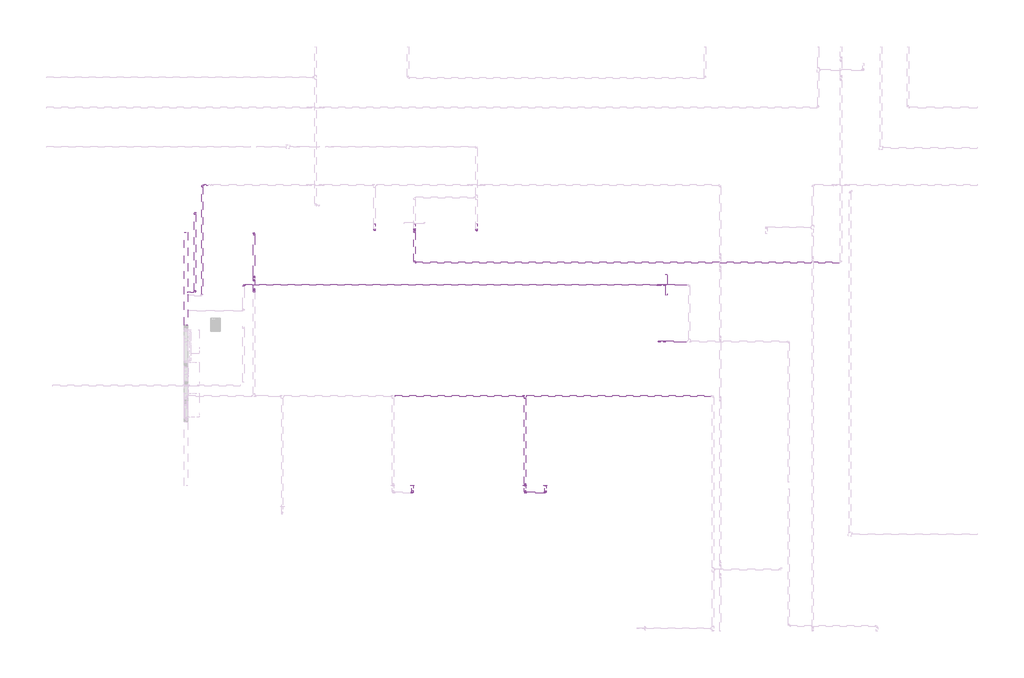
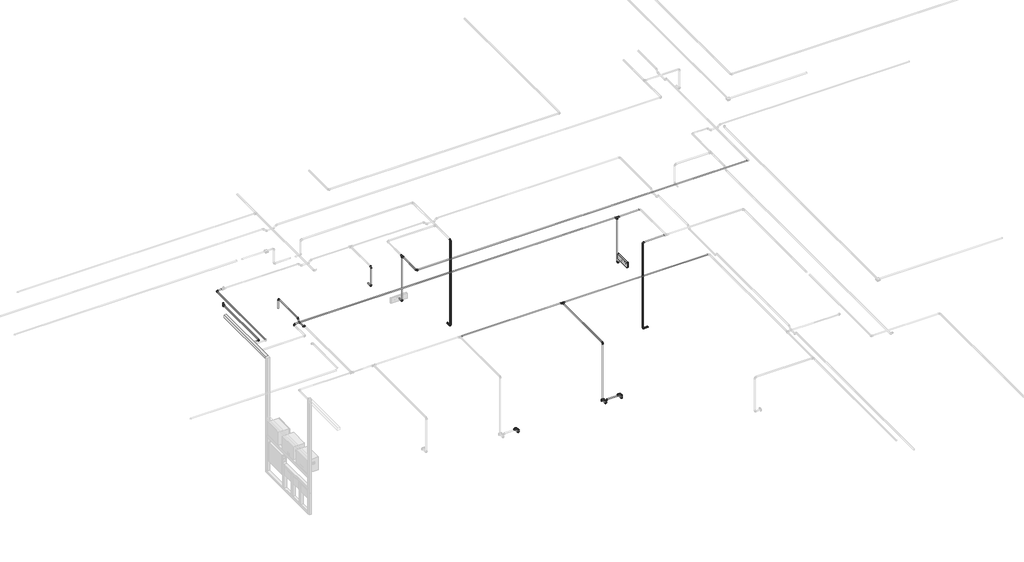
# One storey, part 20 of 40: 36 cable carrier segments, 28 cable carrier fittings, 3 electric appliances, 1 alarm.
"""IFC4 building model written with IfcOpenShell, lengths in millimetres."""

from ifc_helpers import new_model, si_unit, point, frame, frame_2d, origin, place, context, project, spatial, polyline, circle_curve, trimmed, segment, composite_curve, outline, extrude, transform, mapped, element, save
from components import alarm_4b7e8fd8, cable_carrier_fitting_69f1a801, cable_carrier_fitting_8122f9af, cable_carrier_fitting_99385771, cable_carrier_fitting_f64c7cd1, cable_carrier_fitting_8fd13dfc, cable_carrier_fitting_272863db, electric_appliance_5961a143

model = new_model("IFC4")

# Units and contexts
model_context = context("Model", 3, world=origin())
ifc_project = project(units=[si_unit("LENGTHUNIT", "METRE", prefix="MILLI")], contexts=[model_context])

# Site, building, storey
site = spatial("IfcSite", under=ifc_project)
building = spatial("IfcBuilding", under=site)
storey = spatial("IfcBuildingStorey", under=building, Name="1 этаж", Elevation=0.0)

# Alarm
placement = place(None, origin())
alarm_shape = alarm_4b7e8fd8(model_context)
element("IfcAlarm", 1, ObjectType="RBZ_Оповещатель_Световой_Рубеж_ОПОП1-R3(грань) : ОПОП 1-R3 \"Выход\"", at=placement, inside=storey, context=model_context, shape_type="MappedRepresentation", body=[
    mapped(alarm_shape, transform((-16192.3240021, 3137.1370105, 2300.0), x_axis=(0.0, 1.0, 0.0), y_axis=(0.0, 0.0, 1.0), z_axis=(1.0, 0.0, 0.0))),
])

# Cable carrier fittings
cable_carrier_fitting_shape = cable_carrier_fitting_69f1a801(model_context)
element("IfcCableCarrierFitting", 2, ObjectType="ADSK_Поворот_Минимальный размер : Неспецифицируемый", at=placement, inside=storey, context=model_context, shape_type="MappedRepresentation", body=[
    mapped(cable_carrier_fitting_shape, transform((-20414.8240021, 3927.4372049, 2797.4861504), x_axis=(0.0, -1.0, 0.0), y_axis=(0.0, 0.0, 1.0), z_axis=(-1.0, 0.0, 0.0))),
])
element("IfcCableCarrierFitting", 3, ObjectType="ADSK_Поворот_Минимальный размер : Неспецифицируемый", at=placement, inside=storey, context=model_context, shape_type="MappedRepresentation", body=[
    mapped(cable_carrier_fitting_shape, transform((-20414.8240021, 3927.4372049, 3180.0), x_axis=(0.0, 0.0, 1.0), y_axis=(0.0, 1.0, 0.0), z_axis=(-1.0, 0.0, 0.0))),
])
element("IfcCableCarrierFitting", 4, ObjectType="ADSK_Поворот_Минимальный размер : Неспецифицируемый", at=placement, inside=storey, context=model_context, shape_type="MappedRepresentation", body=[
    mapped(cable_carrier_fitting_shape, transform((-18937.3240021, 3927.4372049, 1500.0), x_axis=(0.0, -1.0, 0.0), y_axis=(0.0, 0.0, 1.0), z_axis=(-1.0, 0.0, 0.0))),
])
element("IfcCableCarrierFitting", 5, ObjectType="ADSK_Поворот_Минимальный размер : Неспецифицируемый", at=placement, inside=storey, context=model_context, shape_type="MappedRepresentation", body=[
    mapped(cable_carrier_fitting_shape, transform((-18937.3240021, 3927.4372049, 3189.3), x_axis=(0.0, 0.0, 1.0), y_axis=(0.0, 1.0, 0.0), z_axis=(-1.0, 0.0, 0.0))),
])
element("IfcCableCarrierFitting", 6, ObjectType="ADSK_Поворот_Минимальный размер : Неспецифицируемый", at=placement, inside=storey, context=model_context, shape_type="MappedRepresentation", body=[
    mapped(cable_carrier_fitting_shape, transform((-19837.3240021, 3462.1370308, 3189.3323031), x_axis=(0.0, -0.9999999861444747, -0.00016646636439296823), y_axis=(1.0000000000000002, 0.0, 0.0), z_axis=(0.0, -0.00016646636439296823, 0.9999999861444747))),
])
element("IfcCableCarrierFitting", 7, ObjectType="ADSK_Поворот_Минимальный размер : Неспецифицируемый", at=placement, inside=storey, context=model_context, shape_type="MappedRepresentation", body=[
    mapped(cable_carrier_fitting_shape, transform((-16289.5238077, 2314.6370105, 1500.0), x_axis=(-1.0, 0.0, 0.0), y_axis=(0.0, 0.0, 1.0), z_axis=(0.0, 1.0, 0.0))),
])
element("IfcCableCarrierFitting", 8, ObjectType="ADSK_Поворот_Минимальный размер : Неспецифицируемый", at=placement, inside=storey, context=model_context, shape_type="MappedRepresentation", body=[
    mapped(cable_carrier_fitting_shape, transform((-16289.5238077, 3137.1370105, 2300.0), x_axis=(-1.0, 0.0, 0.0), y_axis=(0.0, 0.0, 1.0), z_axis=(0.0, 1.0, 0.0))),
])
element("IfcCableCarrierFitting", 9, ObjectType="ADSK_Поворот_Минимальный размер : Неспецифицируемый", at=placement, inside=storey, context=model_context, shape_type="MappedRepresentation", body=[
    mapped(cable_carrier_fitting_shape, transform((-22314.3095709, 3137.1370105, 3189.3), x_axis=(-1.0, 0.0, 0.0), y_axis=(0.0, -1.0, 0.0), z_axis=(0.0, 0.0, 1.0))),
])
element("IfcCableCarrierFitting", 10, ObjectType="ADSK_Поворот_Минимальный размер : Неспецифицируемый", at=placement, inside=storey, context=model_context, shape_type="MappedRepresentation", body=[
    mapped(cable_carrier_fitting_shape, transform((-22164.7740021, 3886.6370105, 3187.0), x_axis=(0.0, 0.0, 1.0), y_axis=(0.0, -1.0, 0.0), z_axis=(1.0, 0.0, 0.0))),
])
element("IfcCableCarrierFitting", 11, ObjectType="ADSK_Поворот_Минимальный размер : Неспецифицируемый", at=placement, inside=storey, context=model_context, shape_type="MappedRepresentation", body=[
    mapped(cable_carrier_fitting_shape, transform((-19865.420483, 127.4372049, 2028.0911237), x_axis=(0.0, -1.0, 0.0), y_axis=(0.0, 0.0, 1.0), z_axis=(-1.0, 0.0, 0.0))),
])
element("IfcCableCarrierFitting", 12, ObjectType="ADSK_Поворот_Минимальный размер : Неспецифицируемый", at=placement, inside=storey, context=model_context, shape_type="MappedRepresentation", body=[
    mapped(cable_carrier_fitting_shape, transform((-19865.420483, 127.4372049, 2100.0), x_axis=(0.0, 0.0, 1.0), y_axis=(-0.9996534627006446, -0.026324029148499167, 0.0), z_axis=(0.026324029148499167, -0.9996534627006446, 0.0))),
])
element("IfcCableCarrierFitting", 13, ObjectType="ADSK_Поворот_Минимальный размер : Неспецифицируемый", at=placement, inside=storey, context=model_context, shape_type="MappedRepresentation", body=[
    mapped(cable_carrier_fitting_shape, transform((-17938.7695669, 127.4372049, 2028.0911237), x_axis=(0.0, -1.0, 0.0), y_axis=(0.0, 0.0, 1.0), z_axis=(-1.0, 0.0, 0.0))),
])
element("IfcCableCarrierFitting", 14, ObjectType="ADSK_Поворот_Минимальный размер : Неспецифицируемый", at=placement, inside=storey, context=model_context, shape_type="MappedRepresentation", body=[
    mapped(cable_carrier_fitting_shape, transform((-18236.4364887, 127.4372049, 2028.0911237), x_axis=(0.0, -1.0, 0.0), y_axis=(0.0, 0.0, 1.0), z_axis=(-1.0, 0.0, 0.0))),
])
element("IfcCableCarrierFitting", 15, ObjectType="ADSK_Поворот_Минимальный размер : Неспецифицируемый", at=placement, inside=storey, context=model_context, shape_type="MappedRepresentation", body=[
    mapped(cable_carrier_fitting_shape, transform((-18236.4364887, 127.4372049, 2100.0), x_axis=(0.0, 0.0, 1.0), y_axis=(0.9997246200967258, 0.023466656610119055, 0.0), z_axis=(-0.023466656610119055, 0.9997246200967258, 0.0))),
])
element("IfcCableCarrierFitting", 16, ObjectType="ADSK_Поворот_Минимальный размер : Неспецифицируемый", at=placement, inside=storey, context=model_context, shape_type="MappedRepresentation", body=[
    mapped(cable_carrier_fitting_shape, transform((-17938.7695669, 127.4372049, 2100.0), x_axis=(0.0, 0.0, 1.0), y_axis=(-0.9997246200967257, -0.023466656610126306, 0.0), z_axis=(0.023466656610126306, -0.9997246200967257, 0.0))),
])
element("IfcCableCarrierFitting", 17, ObjectType="ADSK_Поворот_Минимальный размер : Неспецифицируемый", at=placement, inside=storey, context=model_context, shape_type="MappedRepresentation", body=[
    mapped(cable_carrier_fitting_shape, transform((-18236.4364887, 227.6370105, 3166.0), x_axis=(0.0, 0.0, 1.0), y_axis=(0.0, 1.0, 0.0), z_axis=(-1.0, 0.0, 0.0))),
])
element("IfcCableCarrierFitting", 18, ObjectType="ADSK_Поворот_Минимальный размер : Неспецифицируемый", at=placement, inside=storey, context=model_context, shape_type="MappedRepresentation", body=[
    mapped(cable_carrier_fitting_shape, transform((-22914.7740021, 4582.0798551, 3180.0), x_axis=(-1.0, 0.0, 0.0), y_axis=(0.0, -1.0, 0.0), z_axis=(0.0, 0.0, 1.0))),
])
element("IfcCableCarrierFitting", 19, ObjectType="ADSK_Поворот_Минимальный размер : Неспецифицируемый", at=placement, inside=storey, context=model_context, shape_type="MappedRepresentation", body=[
    mapped(cable_carrier_fitting_shape, transform((-23017.3240021, 3029.6996748, 3187.0), x_axis=(1.0, 0.0, 0.0), y_axis=(0.0, 1.0, 0.0), z_axis=(0.0, 0.0, 1.0))),
])
cable_carrier_fitting_2_shape = cable_carrier_fitting_8122f9af(model_context)
element("IfcCableCarrierFitting", 20, ObjectType="ADSK_Поворот_Минимальный размер : Неспецифицируемый", at=placement, inside=storey, context=model_context, shape_type="MappedRepresentation", body=[
    mapped(cable_carrier_fitting_2_shape, transform((-22164.7740021, 3070.5647393, 3137.0), x_axis=(0.0, 0.7071067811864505, -0.7071067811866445), y_axis=(0.0, 0.7071067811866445, 0.7071067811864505), z_axis=(1.0, 0.0, 0.0))),
])
element("IfcCableCarrierFitting", 21, ObjectType="ADSK_Поворот_Минимальный размер : Неспецифицируемый", at=placement, inside=storey, context=model_context, shape_type="MappedRepresentation", body=[
    mapped(cable_carrier_fitting_2_shape, transform((-22164.7740021, 3203.7092818, 3137.0), x_axis=(0.0, 1.0, 0.0), y_axis=(0.0, 0.0, 1.0), z_axis=(1.0, 0.0, 0.0))),
])
element("IfcCableCarrierFitting", 22, ObjectType="ADSK_Поворот_Минимальный размер : Неспецифицируемый", at=placement, inside=storey, context=model_context, shape_type="MappedRepresentation", body=[
    mapped(cable_carrier_fitting_2_shape, transform((-22164.7740021, 3253.7092818, 3187.0), x_axis=(0.0, 0.7071067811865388, 0.7071067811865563), y_axis=(0.0, 0.7071067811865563, -0.7071067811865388), z_axis=(-1.0, 0.0, 0.0))),
])
element("IfcCableCarrierFitting", 23, ObjectType="ADSK_Поворот_Минимальный размер : Неспецифицируемый", at=placement, inside=storey, context=model_context, shape_type="MappedRepresentation", body=[
    mapped(cable_carrier_fitting_2_shape, transform((-22164.7740021, 3041.5647393, 3166.0), x_axis=(0.0, -0.7071067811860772, 0.707106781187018), y_axis=(0.0, -0.707106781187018, -0.7071067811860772), z_axis=(1.0, 0.0, 0.0))),
])
cable_carrier_fitting_3_shape = cable_carrier_fitting_99385771(model_context)
element("IfcCableCarrierFitting", 24, ObjectType="ADSK_Поворот_Минимальный размер : Неспецифицируемый", at=placement, inside=storey, context=model_context, shape_type="MappedRepresentation", body=[
    mapped(cable_carrier_fitting_3_shape, transform((-19837.3240021, 3927.4372049, 2300.0), x_axis=(0.0, -1.0, 0.0), y_axis=(0.0, 0.0, 1.0), z_axis=(-1.0, 0.0, 0.0))),
])
cable_carrier_fitting_4_shape = cable_carrier_fitting_f64c7cd1(model_context)
element("IfcCableCarrierFitting", 25, ObjectType="ADSK_Поворот_Минимальный размер : Неспецифицируемый", at=placement, inside=storey, context=model_context, shape_type="MappedRepresentation", body=[
    mapped(cable_carrier_fitting_4_shape, transform((-16289.5238077, 2314.6370105, 3189.3015994), x_axis=(0.0, 0.0, 1.0), y_axis=(1.0, 0.0, 0.0), z_axis=(0.0, 1.0, 0.0))),
])
cable_carrier_fitting_5_shape = cable_carrier_fitting_8fd13dfc(model_context)
element("IfcCableCarrierFitting", 26, ObjectType="ADSK_Тройник : ПВХ", at=placement, inside=storey, context=model_context, shape_type="MappedRepresentation", body=[
    mapped(cable_carrier_fitting_5_shape, transform((-16289.5238077, 3137.1370105, 3189.3), x_axis=(-1.0, 0.0, 0.0), y_axis=(0.0, 0.0, 1.0), z_axis=(0.0, 1.0, 0.0))),
])
element("IfcCableCarrierFitting", 27, ObjectType="ADSK_Тройник : ПВХ", at=placement, inside=storey, context=model_context, shape_type="MappedRepresentation", body=[
    mapped(cable_carrier_fitting_5_shape, transform((-18236.4364887, 1524.6370105, 3166.0), x_axis=(1.0, 0.0, 0.0), y_axis=(0.0, 1.0, 0.0), z_axis=(0.0, 0.0, 1.0))),
])
element("IfcCableCarrierFitting", 28, ObjectType="ADSK_Тройник : ПВХ", at=placement, inside=storey, context=model_context, shape_type="MappedRepresentation", body=[
    mapped(cable_carrier_fitting_5_shape, transform((-23017.3240021, 4191.0020779, 3187.0), x_axis=(0.0, 0.0, -1.0), y_axis=(0.0, 1.0, 0.0), z_axis=(1.0, 0.0, 0.0))),
])
cable_carrier_fitting_6_shape = cable_carrier_fitting_272863db(model_context)
element("IfcCableCarrierFitting", 29, ObjectType="ADSK_Тройник : ПВХ", at=placement, inside=storey, context=model_context, shape_type="MappedRepresentation", body=[
    mapped(cable_carrier_fitting_6_shape, transform((-19837.3240021, 3927.4372049, 3189.4356474), x_axis=(0.0, -0.9999999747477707, -0.00022473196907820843), y_axis=(0.0, 0.00022473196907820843, -0.9999999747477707), z_axis=(1.0, 0.0, 0.0))),
])

# Cable carrier segments
element("IfcCableCarrierSegment", 30, ObjectType="IEK_PF_OS_Лоток перфорированный оцинкованная сталь_L=3000_t=0,55", at=placement, inside=storey, context=model_context, shape_type="SweptSolid", body=[
    extrude(outline(polyline([(-23172.3240021, 2552.269318), (-23172.3240021, 3896.269318), (-23127.3240021, 3896.269318), (-23127.3240021, 2552.269318), (-23172.3240021, 2552.269318)])), frame((0.0, 0.0, 3164.5), z_axis=(0.0, 0.0, 1.0), x_axis=(1.0, 0.0, 0.0)), (0.0, 0.0, 1.0), 45.0),
])
element("IfcCableCarrierSegment", 31, ObjectType="Гофрированная труба", at=placement, inside=storey, context=model_context, shape_type="SweptSolid", body=[
    extrude(outline(composite_curve([segment(trimmed(circle_curve(frame_2d((3462.1370308, 3189.3323031)), 10.0), [point((3472.1370308, 3189.3323099))], [point((3462.1370375, 3179.3323031))], False, "CARTESIAN"), True, "CONTINUOUS"), segment(trimmed(circle_curve(frame_2d((3462.1370308, 3189.3323031)), 10.0), [point((3462.1370375, 3179.3323031))], [point((3452.1370308, 3189.3322963))], False, "CARTESIAN"), True, "CONTINUOUS"), segment(trimmed(circle_curve(frame_2d((3462.1370308, 3189.3323031)), 10.0), [point((3452.1370308, 3189.3322963))], [point((3462.137024, 3199.3323031))], False, "CARTESIAN"), True, "CONTINUOUS"), segment(trimmed(circle_curve(frame_2d((3462.1370308, 3189.3323031)), 10.0), [point((3462.137024, 3199.3323031))], [point((3472.1370308, 3189.3323099))], False, "CARTESIAN"), True, "CONTINUOUS")], self_intersect=False)), frame((-19816.3240021, 0.0, 0.0), z_axis=(1.0, 0.0, 0.0), x_axis=(0.0, 1.0, 0.0)), (0.0, 0.0, 1.0), 6142.9999908),
])
element("IfcCableCarrierSegment", 32, ObjectType="Гофрированная труба", at=placement, inside=storey, context=model_context, shape_type="SweptSolid", body=[
    extrude(outline(composite_curve([segment(trimmed(circle_curve(frame_2d((3180.0, -22914.7740021)), 10.0), [point((3180.0, -22924.7740021))], [point((3170.0, -22914.7740021))], False, "CARTESIAN"), True, "CONTINUOUS"), segment(trimmed(circle_curve(frame_2d((3180.0, -22914.7740021)), 10.0), [point((3170.0, -22914.7740021))], [point((3180.0, -22904.7740021))], False, "CARTESIAN"), True, "CONTINUOUS"), segment(trimmed(circle_curve(frame_2d((3180.0, -22914.7740021)), 10.0), [point((3180.0, -22904.7740021))], [point((3190.0, -22914.7740021))], False, "CARTESIAN"), True, "CONTINUOUS"), segment(trimmed(circle_curve(frame_2d((3180.0, -22914.7740021)), 10.0), [point((3190.0, -22914.7740021))], [point((3180.0, -22924.7740021))], False, "CARTESIAN"), True, "CONTINUOUS")], self_intersect=False)), frame((0.0, 3003.0798551, 0.0), z_axis=(0.0, 1.0, 0.0), x_axis=(0.0, 0.0, 1.0)), (0.0, 0.0, 1.0), 1558.0),
])
element("IfcCableCarrierSegment", 33, ObjectType="Гофрированная труба", at=placement, inside=storey, context=model_context, shape_type="SweptSolid", body=[
    extrude(outline(composite_curve([segment(trimmed(circle_curve(frame_2d((2797.4861504, -20414.8240021)), 10.0), [point((2797.4861504, -20424.8240021))], [point((2787.4861504, -20414.8240021))], False, "CARTESIAN"), True, "CONTINUOUS"), segment(trimmed(circle_curve(frame_2d((2797.4861504, -20414.8240021)), 10.0), [point((2787.4861504, -20414.8240021))], [point((2797.4861504, -20404.8240021))], False, "CARTESIAN"), True, "CONTINUOUS"), segment(trimmed(circle_curve(frame_2d((2797.4861504, -20414.8240021)), 10.0), [point((2797.4861504, -20404.8240021))], [point((2807.4861504, -20414.8240021))], False, "CARTESIAN"), True, "CONTINUOUS"), segment(trimmed(circle_curve(frame_2d((2797.4861504, -20414.8240021)), 10.0), [point((2807.4861504, -20414.8240021))], [point((2797.4861504, -20424.8240021))], False, "CARTESIAN"), True, "CONTINUOUS")], self_intersect=False)), frame((0.0, 3948.4372049, 0.0), z_axis=(0.0, 1.0, 0.0), x_axis=(0.0, 0.0, 1.0)), (0.0, 0.0, 1.0), 76.1998056),
])
element("IfcCableCarrierSegment", 34, ObjectType="Гофрированная труба", at=placement, inside=storey, context=model_context, shape_type="SweptSolid", body=[
    extrude(outline(composite_curve([segment(trimmed(circle_curve(frame_2d((-20414.8240021, 3927.4372049)), 10.0), [point((-20424.8240021, 3927.4372049))], [point((-20414.8240021, 3937.4372049))], False, "CARTESIAN"), True, "CONTINUOUS"), segment(trimmed(circle_curve(frame_2d((-20414.8240021, 3927.4372049)), 10.0), [point((-20414.8240021, 3937.4372049))], [point((-20404.8240021, 3927.4372049))], False, "CARTESIAN"), True, "CONTINUOUS"), segment(trimmed(circle_curve(frame_2d((-20414.8240021, 3927.4372049)), 10.0), [point((-20404.8240021, 3927.4372049))], [point((-20414.8240021, 3917.4372049))], False, "CARTESIAN"), True, "CONTINUOUS"), segment(trimmed(circle_curve(frame_2d((-20414.8240021, 3927.4372049)), 10.0), [point((-20414.8240021, 3917.4372049))], [point((-20424.8240021, 3927.4372049))], False, "CARTESIAN"), True, "CONTINUOUS")], self_intersect=False)), frame((0.0, 0.0, 2818.4861504), z_axis=(0.0, 0.0, 1.0), x_axis=(1.0, 0.0, 0.0)), (0.0, 0.0, 1.0), 340.5138496),
])
element("IfcCableCarrierSegment", 35, ObjectType="Гофрированная труба", at=placement, inside=storey, context=model_context, shape_type="SweptSolid", body=[
    extrude(outline(composite_curve([segment(trimmed(circle_curve(frame_2d((4582.0798551, 3180.0)), 10.0), [point((4592.0798551, 3180.0))], [point((4582.0798551, 3170.0))], False, "CARTESIAN"), True, "CONTINUOUS"), segment(trimmed(circle_curve(frame_2d((4582.0798551, 3180.0)), 10.0), [point((4582.0798551, 3170.0))], [point((4572.0798551, 3180.0))], False, "CARTESIAN"), True, "CONTINUOUS"), segment(trimmed(circle_curve(frame_2d((4582.0798551, 3180.0)), 10.0), [point((4572.0798551, 3180.0))], [point((4582.0798551, 3190.0))], False, "CARTESIAN"), True, "CONTINUOUS"), segment(trimmed(circle_curve(frame_2d((4582.0798551, 3180.0)), 10.0), [point((4582.0798551, 3190.0))], [point((4592.0798551, 3180.0))], False, "CARTESIAN"), True, "CONTINUOUS")], self_intersect=False)), frame((-22893.7740021, 0.0, 0.0), z_axis=(1.0, 0.0, 0.0), x_axis=(0.0, 1.0, 0.0)), (0.0, 0.0, 1.0), 76.9142951),
])
element("IfcCableCarrierSegment", 36, ObjectType="Гофрированная труба", at=placement, inside=storey, context=model_context, shape_type="SweptSolid", body=[
    extrude(outline(composite_curve([segment(trimmed(circle_curve(frame_2d((1500.0, -18937.3240021)), 10.0), [point((1500.0, -18947.3240021))], [point((1490.0, -18937.3240021))], False, "CARTESIAN"), True, "CONTINUOUS"), segment(trimmed(circle_curve(frame_2d((1500.0, -18937.3240021)), 10.0), [point((1490.0, -18937.3240021))], [point((1500.0, -18927.3240021))], False, "CARTESIAN"), True, "CONTINUOUS"), segment(trimmed(circle_curve(frame_2d((1500.0, -18937.3240021)), 10.0), [point((1500.0, -18927.3240021))], [point((1510.0, -18937.3240021))], False, "CARTESIAN"), True, "CONTINUOUS"), segment(trimmed(circle_curve(frame_2d((1500.0, -18937.3240021)), 10.0), [point((1510.0, -18937.3240021))], [point((1500.0, -18947.3240021))], False, "CARTESIAN"), True, "CONTINUOUS")], self_intersect=False)), frame((0.0, 3948.4372049, 0.0), z_axis=(0.0, 1.0, 0.0), x_axis=(0.0, 0.0, 1.0)), (0.0, 0.0, 1.0), 76.1998056),
])
element("IfcCableCarrierSegment", 37, ObjectType="Гофрированная труба", at=placement, inside=storey, context=model_context, shape_type="SweptSolid", body=[
    extrude(outline(composite_curve([segment(trimmed(circle_curve(frame_2d((-18937.3240021, 3927.4372049)), 10.0), [point((-18947.3240021, 3927.4372049))], [point((-18937.3240021, 3937.4372049))], False, "CARTESIAN"), True, "CONTINUOUS"), segment(trimmed(circle_curve(frame_2d((-18937.3240021, 3927.4372049)), 10.0), [point((-18937.3240021, 3937.4372049))], [point((-18927.3240021, 3927.4372049))], False, "CARTESIAN"), True, "CONTINUOUS"), segment(trimmed(circle_curve(frame_2d((-18937.3240021, 3927.4372049)), 10.0), [point((-18927.3240021, 3927.4372049))], [point((-18937.3240021, 3917.4372049))], False, "CARTESIAN"), True, "CONTINUOUS"), segment(trimmed(circle_curve(frame_2d((-18937.3240021, 3927.4372049)), 10.0), [point((-18937.3240021, 3917.4372049))], [point((-18947.3240021, 3927.4372049))], False, "CARTESIAN"), True, "CONTINUOUS")], self_intersect=False)), frame((0.0, 0.0, 1521.0), z_axis=(0.0, 0.0, 1.0), x_axis=(1.0, 0.0, 0.0)), (0.0, 0.0, 1.0), 1647.3),
])
element("IfcCableCarrierSegment", 38, ObjectType="Гофрированная труба", at=placement, inside=storey, context=model_context, shape_type="SweptSolid", body=[
    extrude(outline(composite_curve([segment(trimmed(circle_curve(frame_2d((2300.0, -19837.3240021)), 10.0), [point((2300.0, -19847.3240021))], [point((2290.0, -19837.3240021))], False, "CARTESIAN"), True, "CONTINUOUS"), segment(trimmed(circle_curve(frame_2d((2300.0, -19837.3240021)), 10.0), [point((2290.0, -19837.3240021))], [point((2300.0, -19827.3240021))], False, "CARTESIAN"), True, "CONTINUOUS"), segment(trimmed(circle_curve(frame_2d((2300.0, -19837.3240021)), 10.0), [point((2300.0, -19827.3240021))], [point((2310.0, -19837.3240021))], False, "CARTESIAN"), True, "CONTINUOUS"), segment(trimmed(circle_curve(frame_2d((2300.0, -19837.3240021)), 10.0), [point((2310.0, -19837.3240021))], [point((2300.0, -19847.3240021))], False, "CARTESIAN"), True, "CONTINUOUS")], self_intersect=False)), frame((0.0, 3948.4373618, 0.0), z_axis=(0.0, 1.0, 0.0), x_axis=(0.0, 0.0, 1.0)), (0.0, 0.0, 1.0), 76.1996487),
])
element("IfcCableCarrierSegment", 39, ObjectType="Гофрированная труба", at=placement, inside=storey, context=model_context, shape_type="SweptSolid", body=[
    extrude(outline(composite_curve([segment(trimmed(circle_curve(frame_2d((0.0, 10.0)), 10.0), [point((-10.0, 10.0))], [point((0.0, 20.0))], False, "CARTESIAN"), True, "CONTINUOUS"), segment(trimmed(circle_curve(frame_2d((0.0, 10.0)), 10.0), [point((0.0, 20.0))], [point((10.0, 10.0))], False, "CARTESIAN"), True, "CONTINUOUS"), segment(trimmed(circle_curve(frame_2d((0.0, 10.0)), 10.0), [point((10.0, 10.0))], [point((0.0, 0.0))], False, "CARTESIAN"), True, "CONTINUOUS"), segment(trimmed(circle_curve(frame_2d((0.0, 10.0)), 10.0), [point((0.0, 0.0))], [point((-10.0, 10.0))], False, "CARTESIAN"), True, "CONTINUOUS")], self_intersect=False)), frame((-19837.3240021, 3917.4373697, 2321.0002353), z_axis=(0.0, 7.844635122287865e-06, 0.999999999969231), x_axis=(1.0, 0.0, 0.0)), (0.0, 0.0, 1.0), 838.4354912),
])
element("IfcCableCarrierSegment", 40, ObjectType="Гофрированная труба", at=placement, inside=storey, context=model_context, shape_type="SweptSolid", body=[
    extrude(outline(composite_curve([segment(trimmed(circle_curve(frame_2d((0.0, 10.0)), 10.0), [point((0.0, 20.0))], [point((10.0000001, 10.0))], False, "CARTESIAN"), True, "CONTINUOUS"), segment(trimmed(circle_curve(frame_2d((0.0, 10.0)), 10.0), [point((10.0000001, 10.0))], [point((0.0, 0.0))], False, "CARTESIAN"), True, "CONTINUOUS"), segment(trimmed(circle_curve(frame_2d((0.0, 10.0)), 10.0), [point((0.0, 0.0))], [point((-10.0, 10.0))], False, "CARTESIAN"), True, "CONTINUOUS"), segment(trimmed(circle_curve(frame_2d((0.0, 10.0)), 10.0), [point((-10.0, 10.0))], [point((0.0, 20.0))], False, "CARTESIAN"), True, "CONTINUOUS")], self_intersect=False)), frame((-19847.3240021, 3483.1370305, 3189.3357989), z_axis=(0.0, 0.9999999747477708, 0.00022473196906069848), x_axis=(0.0, -0.00022473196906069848, 0.9999999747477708)), (0.0, 0.0, 1.0), 414.3001857),
])
element("IfcCableCarrierSegment", 41, ObjectType="Гофрированная труба", at=placement, inside=storey, context=model_context, shape_type="SweptSolid", body=[
    extrude(outline(composite_curve([segment(trimmed(circle_curve(frame_2d((0.0, 10.0)), 10.0), [point((-10.0, 10.0))], [point((0.0, 20.0000001))], False, "CARTESIAN"), True, "CONTINUOUS"), segment(trimmed(circle_curve(frame_2d((0.0, 10.0)), 10.0), [point((0.0, 20.0000001))], [point((10.0, 10.0))], False, "CARTESIAN"), True, "CONTINUOUS"), segment(trimmed(circle_curve(frame_2d((0.0, 10.0)), 10.0), [point((10.0, 10.0))], [point((0.0, 0.0))], False, "CARTESIAN"), True, "CONTINUOUS"), segment(trimmed(circle_curve(frame_2d((0.0, 10.0)), 10.0), [point((0.0, 0.0))], [point((-10.0, 10.0))], False, "CARTESIAN"), True, "CONTINUOUS")], self_intersect=False)), frame((-15882.3247637, 2314.6370105, 3179.2705868), z_axis=(-0.9999999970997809, 0.0, 7.61606080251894e-05), x_axis=(0.0, -1.0, 0.0)), (0.0, 0.0, 1.0), 386.1982835),
])
element("IfcCableCarrierSegment", 42, ObjectType="Гофрированная труба", at=placement, inside=storey, context=model_context, shape_type="SweptSolid", body=[
    extrude(outline(composite_curve([segment(trimmed(circle_curve(frame_2d((2314.6370105, 1500.0)), 10.0), [point((2324.6370105, 1500.0))], [point((2314.6370105, 1490.0))], False, "CARTESIAN"), True, "CONTINUOUS"), segment(trimmed(circle_curve(frame_2d((2314.6370105, 1500.0)), 10.0), [point((2314.6370105, 1490.0))], [point((2304.6370105, 1500.0))], False, "CARTESIAN"), True, "CONTINUOUS"), segment(trimmed(circle_curve(frame_2d((2314.6370105, 1500.0)), 10.0), [point((2304.6370105, 1500.0))], [point((2314.6370105, 1510.0))], False, "CARTESIAN"), True, "CONTINUOUS"), segment(trimmed(circle_curve(frame_2d((2314.6370105, 1500.0)), 10.0), [point((2314.6370105, 1510.0))], [point((2324.6370105, 1500.0))], False, "CARTESIAN"), True, "CONTINUOUS")], self_intersect=False)), frame((-16268.5238077, 0.0, 0.0), z_axis=(1.0, 0.0, 0.0), x_axis=(0.0, 1.0, 0.0)), (0.0, 0.0, 1.0), 76.1998056),
])
element("IfcCableCarrierSegment", 43, ObjectType="Гофрированная труба", at=placement, inside=storey, context=model_context, shape_type="SweptSolid", body=[
    extrude(outline(composite_curve([segment(trimmed(circle_curve(frame_2d((-16289.5238077, 2314.6370105)), 10.0), [point((-16299.5238077, 2314.6370105))], [point((-16289.5238077, 2324.6370105))], False, "CARTESIAN"), True, "CONTINUOUS"), segment(trimmed(circle_curve(frame_2d((-16289.5238077, 2314.6370105)), 10.0), [point((-16289.5238077, 2324.6370105))], [point((-16279.5238077, 2314.6370105))], False, "CARTESIAN"), True, "CONTINUOUS"), segment(trimmed(circle_curve(frame_2d((-16289.5238077, 2314.6370105)), 10.0), [point((-16279.5238077, 2314.6370105))], [point((-16289.5238077, 2304.6370105))], False, "CARTESIAN"), True, "CONTINUOUS"), segment(trimmed(circle_curve(frame_2d((-16289.5238077, 2314.6370105)), 10.0), [point((-16289.5238077, 2304.6370105))], [point((-16299.5238077, 2314.6370105))], False, "CARTESIAN"), True, "CONTINUOUS")], self_intersect=False)), frame((0.0, 0.0, 1521.0), z_axis=(0.0, 0.0, 1.0), x_axis=(1.0, 0.0, 0.0)), (0.0, 0.0, 1.0), 1647.3000761),
])
element("IfcCableCarrierSegment", 44, ObjectType="Гофрированная труба", at=placement, inside=storey, context=model_context, shape_type="SweptSolid", body=[
    extrude(outline(composite_curve([segment(trimmed(circle_curve(frame_2d((3137.1370105, 2300.0)), 10.0), [point((3147.1370105, 2300.0))], [point((3137.1370105, 2290.0))], False, "CARTESIAN"), True, "CONTINUOUS"), segment(trimmed(circle_curve(frame_2d((3137.1370105, 2300.0)), 10.0), [point((3137.1370105, 2290.0))], [point((3127.1370105, 2300.0))], False, "CARTESIAN"), True, "CONTINUOUS"), segment(trimmed(circle_curve(frame_2d((3137.1370105, 2300.0)), 10.0), [point((3127.1370105, 2300.0))], [point((3137.1370105, 2310.0))], False, "CARTESIAN"), True, "CONTINUOUS"), segment(trimmed(circle_curve(frame_2d((3137.1370105, 2300.0)), 10.0), [point((3137.1370105, 2310.0))], [point((3147.1370105, 2300.0))], False, "CARTESIAN"), True, "CONTINUOUS")], self_intersect=False)), frame((-16268.5238077, 0.0, 0.0), z_axis=(1.0, 0.0, 0.0), x_axis=(0.0, 1.0, 0.0)), (0.0, 0.0, 1.0), 76.1998056),
])
element("IfcCableCarrierSegment", 45, ObjectType="Гофрированная труба", at=placement, inside=storey, context=model_context, shape_type="SweptSolid", body=[
    extrude(outline(composite_curve([segment(trimmed(circle_curve(frame_2d((-16289.5238077, 3137.1370105)), 10.0), [point((-16299.5238077, 3137.1370105))], [point((-16289.5238077, 3147.1370105))], False, "CARTESIAN"), True, "CONTINUOUS"), segment(trimmed(circle_curve(frame_2d((-16289.5238077, 3137.1370105)), 10.0), [point((-16289.5238077, 3147.1370105))], [point((-16279.5238077, 3137.1370105))], False, "CARTESIAN"), True, "CONTINUOUS"), segment(trimmed(circle_curve(frame_2d((-16289.5238077, 3137.1370105)), 10.0), [point((-16279.5238077, 3137.1370105))], [point((-16289.5238077, 3127.1370105))], False, "CARTESIAN"), True, "CONTINUOUS"), segment(trimmed(circle_curve(frame_2d((-16289.5238077, 3137.1370105)), 10.0), [point((-16289.5238077, 3127.1370105))], [point((-16299.5238077, 3137.1370105))], False, "CARTESIAN"), True, "CONTINUOUS")], self_intersect=False)), frame((0.0, 0.0, 2321.0), z_axis=(0.0, 0.0, 1.0), x_axis=(1.0, 0.0, 0.0)), (0.0, 0.0, 1.0), 838.3),
])
element("IfcCableCarrierSegment", 46, ObjectType="Гофрированная труба", at=placement, inside=storey, context=model_context, shape_type="SweptSolid", body=[
    extrude(outline(composite_curve([segment(trimmed(circle_curve(frame_2d((0.0, 10.0)), 10.0), [point((-10.0, 10.0))], [point((0.0, 20.0000001))], False, "CARTESIAN"), True, "CONTINUOUS"), segment(trimmed(circle_curve(frame_2d((0.0, 10.0)), 10.0), [point((0.0, 20.0000001))], [point((10.0, 10.0))], False, "CARTESIAN"), True, "CONTINUOUS"), segment(trimmed(circle_curve(frame_2d((0.0, 10.0)), 10.0), [point((10.0, 10.0))], [point((0.0, 0.0))], False, "CARTESIAN"), True, "CONTINUOUS"), segment(trimmed(circle_curve(frame_2d((0.0, 10.0)), 10.0), [point((0.0, 0.0))], [point((-10.0, 10.0))], False, "CARTESIAN"), True, "CONTINUOUS")], self_intersect=False)), frame((-15873.3247244, 3137.1370105, 3179.2721037), z_axis=(-0.999999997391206, 0.0, 7.223287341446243e-05), x_axis=(0.0, -1.0, 0.0)), (0.0, 0.0, 1.0), 386.1998067),
])
element("IfcCableCarrierSegment", 47, ObjectType="Гофрированная труба", at=placement, inside=storey, context=model_context, shape_type="SweptSolid", body=[
    extrude(outline(composite_curve([segment(trimmed(circle_curve(frame_2d((3137.1370105, 3189.3)), 10.0), [point((3127.1370105, 3189.3))], [point((3137.1370105, 3199.3))], False, "CARTESIAN"), True, "CONTINUOUS"), segment(trimmed(circle_curve(frame_2d((3137.1370105, 3189.3)), 10.0), [point((3137.1370105, 3199.3))], [point((3147.1370105, 3189.3))], False, "CARTESIAN"), True, "CONTINUOUS"), segment(trimmed(circle_curve(frame_2d((3137.1370105, 3189.3)), 10.0), [point((3147.1370105, 3189.3))], [point((3137.1370105, 3179.3))], False, "CARTESIAN"), True, "CONTINUOUS"), segment(trimmed(circle_curve(frame_2d((3137.1370105, 3189.3)), 10.0), [point((3137.1370105, 3179.3))], [point((3127.1370105, 3189.3))], False, "CARTESIAN"), True, "CONTINUOUS")], self_intersect=False)), frame((-22293.3095709, 0.0, 0.0), z_axis=(1.0, 0.0, 0.0), x_axis=(0.0, 1.0, 0.0)), (0.0, 0.0, 1.0), 5973.7857632),
])
element("IfcCableCarrierSegment", 48, ObjectType="Гофрированная труба", at=placement, inside=storey, context=model_context, shape_type="SweptSolid", body=[
    extrude(outline(composite_curve([segment(trimmed(circle_curve(frame_2d((3137.0, -22164.7740021)), 10.0), [point((3137.0, -22154.7740021))], [point((3147.0, -22164.7740021))], False, "CARTESIAN"), True, "CONTINUOUS"), segment(trimmed(circle_curve(frame_2d((3137.0, -22164.7740021)), 10.0), [point((3147.0, -22164.7740021))], [point((3137.0, -22174.7740021))], False, "CARTESIAN"), True, "CONTINUOUS"), segment(trimmed(circle_curve(frame_2d((3137.0, -22164.7740021)), 10.0), [point((3137.0, -22174.7740021))], [point((3127.0, -22164.7740021))], False, "CARTESIAN"), True, "CONTINUOUS"), segment(trimmed(circle_curve(frame_2d((3137.0, -22164.7740021)), 10.0), [point((3127.0, -22164.7740021))], [point((3137.0, -22154.7740021))], False, "CARTESIAN"), True, "CONTINUOUS")], self_intersect=False)), frame((0.0, 3079.8490105, 0.0), z_axis=(0.0, 1.0, 0.0), x_axis=(0.0, 0.0, 1.0)), (0.0, 0.0, 1.0), 114.576),
])
element("IfcCableCarrierSegment", 49, ObjectType="Гофрированная труба", at=placement, inside=storey, context=model_context, shape_type="SweptSolid", body=[
    extrude(outline(composite_curve([segment(trimmed(circle_curve(frame_2d((-22164.7740021, 3886.6370105)), 10.0), [point((-22174.7740021, 3886.6370105))], [point((-22164.7740021, 3896.6370105))], False, "CARTESIAN"), True, "CONTINUOUS"), segment(trimmed(circle_curve(frame_2d((-22164.7740021, 3886.6370105)), 10.0), [point((-22164.7740021, 3896.6370105))], [point((-22154.7740021, 3886.6370105))], False, "CARTESIAN"), True, "CONTINUOUS"), segment(trimmed(circle_curve(frame_2d((-22164.7740021, 3886.6370105)), 10.0), [point((-22154.7740021, 3886.6370105))], [point((-22164.7740021, 3876.6370105))], False, "CARTESIAN"), True, "CONTINUOUS"), segment(trimmed(circle_curve(frame_2d((-22164.7740021, 3886.6370105)), 10.0), [point((-22164.7740021, 3876.6370105))], [point((-22174.7740021, 3886.6370105))], False, "CARTESIAN"), True, "CONTINUOUS")], self_intersect=False)), frame((0.0, 0.0, 3000.0), z_axis=(0.0, 0.0, 1.0), x_axis=(1.0, 0.0, 0.0)), (0.0, 0.0, 1.0), 166.0),
])
element("IfcCableCarrierSegment", 50, ObjectType="Гофрированная труба", at=placement, inside=storey, context=model_context, shape_type="SweptSolid", body=[
    extrude(outline(composite_curve([segment(trimmed(circle_curve(frame_2d((2028.0911237, -19865.420483)), 10.0), [point((2028.0911237, -19875.420483))], [point((2018.0911237, -19865.420483))], False, "CARTESIAN"), True, "CONTINUOUS"), segment(trimmed(circle_curve(frame_2d((2028.0911237, -19865.420483)), 10.0), [point((2018.0911237, -19865.420483))], [point((2028.0911237, -19855.420483))], False, "CARTESIAN"), True, "CONTINUOUS"), segment(trimmed(circle_curve(frame_2d((2028.0911237, -19865.420483)), 10.0), [point((2028.0911237, -19855.420483))], [point((2038.0911237, -19865.420483))], False, "CARTESIAN"), True, "CONTINUOUS"), segment(trimmed(circle_curve(frame_2d((2028.0911237, -19865.420483)), 10.0), [point((2038.0911237, -19865.420483))], [point((2028.0911237, -19875.420483))], False, "CARTESIAN"), True, "CONTINUOUS")], self_intersect=False)), frame((0.0, 148.4372049, 0.0), z_axis=(0.0, 1.0, 0.0), x_axis=(0.0, 0.0, 1.0)), (0.0, 0.0, 1.0), 76.1998056),
])
element("IfcCableCarrierSegment", 51, ObjectType="Гофрированная труба", at=placement, inside=storey, context=model_context, shape_type="SweptSolid", body=[
    extrude(outline(composite_curve([segment(trimmed(circle_curve(frame_2d((-19865.420483, 127.4372049)), 10.0), [point((-19875.420483, 127.4372049))], [point((-19865.420483, 137.4372049))], False, "CARTESIAN"), True, "CONTINUOUS"), segment(trimmed(circle_curve(frame_2d((-19865.420483, 127.4372049)), 10.0), [point((-19865.420483, 137.4372049))], [point((-19855.420483, 127.4372049))], False, "CARTESIAN"), True, "CONTINUOUS"), segment(trimmed(circle_curve(frame_2d((-19865.420483, 127.4372049)), 10.0), [point((-19855.420483, 127.4372049))], [point((-19865.420483, 117.4372049))], False, "CARTESIAN"), True, "CONTINUOUS"), segment(trimmed(circle_curve(frame_2d((-19865.420483, 127.4372049)), 10.0), [point((-19865.420483, 117.4372049))], [point((-19875.420483, 127.4372049))], False, "CARTESIAN"), True, "CONTINUOUS")], self_intersect=False)), frame((0.0, 0.0, 2049.0911237), z_axis=(0.0, 0.0, 1.0), x_axis=(1.0, 0.0, 0.0)), (0.0, 0.0, 1.0), 29.9088763),
])
element("IfcCableCarrierSegment", 52, ObjectType="Гофрированная труба", at=placement, inside=storey, context=model_context, shape_type="SweptSolid", body=[
    extrude(outline(composite_curve([segment(trimmed(circle_curve(frame_2d((1524.6370105, 3166.0)), 10.0), [point((1514.6370105, 3166.0))], [point((1524.6370105, 3176.0))], False, "CARTESIAN"), True, "CONTINUOUS"), segment(trimmed(circle_curve(frame_2d((1524.6370105, 3166.0)), 10.0), [point((1524.6370105, 3176.0))], [point((1534.6370105, 3166.0))], False, "CARTESIAN"), True, "CONTINUOUS"), segment(trimmed(circle_curve(frame_2d((1524.6370105, 3166.0)), 10.0), [point((1534.6370105, 3166.0))], [point((1524.6370105, 3156.0))], False, "CARTESIAN"), True, "CONTINUOUS"), segment(trimmed(circle_curve(frame_2d((1524.6370105, 3166.0)), 10.0), [point((1524.6370105, 3156.0))], [point((1514.6370105, 3166.0))], False, "CARTESIAN"), True, "CONTINUOUS")], self_intersect=False)), frame((-20116.1690822, 0.0, 0.0), z_axis=(1.0, 0.0, 0.0), x_axis=(0.0, 1.0, 0.0)), (0.0, 0.0, 1.0), 1849.7325935),
])
element("IfcCableCarrierSegment", 53, ObjectType="Гофрированная труба", at=placement, inside=storey, context=model_context, shape_type="SweptSolid", body=[
    extrude(outline(composite_curve([segment(trimmed(circle_curve(frame_2d((0.0, -10.0)), 10.0), [point((-10.0, -10.0))], [point((0.0, 0.0))], False, "CARTESIAN"), True, "CONTINUOUS"), segment(trimmed(circle_curve(frame_2d((0.0, -10.0)), 10.0), [point((0.0, 0.0))], [point((10.0, -10.0))], False, "CARTESIAN"), True, "CONTINUOUS"), segment(trimmed(circle_curve(frame_2d((0.0, -10.0)), 10.0), [point((10.0, -10.0))], [point((0.0, -20.0))], False, "CARTESIAN"), True, "CONTINUOUS"), segment(trimmed(circle_curve(frame_2d((0.0, -10.0)), 10.0), [point((0.0, -20.0))], [point((-10.0, -10.0))], False, "CARTESIAN"), True, "CONTINUOUS")], self_intersect=False)), frame((-17959.7637839, 126.9444051, 2090.0), z_axis=(-0.9999925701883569, 0.0038548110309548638, 0.0), x_axis=(0.0038548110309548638, 0.9999925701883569, 0.0)), (0.0, 0.0, 1.0), 255.6803874),
])
element("IfcCableCarrierSegment", 54, ObjectType="Гофрированная труба", at=placement, inside=storey, context=model_context, shape_type="SweptSolid", body=[
    extrude(outline(composite_curve([segment(trimmed(circle_curve(frame_2d((2028.0911237, -17938.7695669)), 10.0), [point((2028.0911237, -17948.7695669))], [point((2018.0911237, -17938.7695669))], False, "CARTESIAN"), True, "CONTINUOUS"), segment(trimmed(circle_curve(frame_2d((2028.0911237, -17938.7695669)), 10.0), [point((2018.0911237, -17938.7695669))], [point((2028.0911237, -17928.7695669))], False, "CARTESIAN"), True, "CONTINUOUS"), segment(trimmed(circle_curve(frame_2d((2028.0911237, -17938.7695669)), 10.0), [point((2028.0911237, -17928.7695669))], [point((2038.0911237, -17938.7695669))], False, "CARTESIAN"), True, "CONTINUOUS"), segment(trimmed(circle_curve(frame_2d((2028.0911237, -17938.7695669)), 10.0), [point((2038.0911237, -17938.7695669))], [point((2028.0911237, -17948.7695669))], False, "CARTESIAN"), True, "CONTINUOUS")], self_intersect=False)), frame((0.0, 148.4372049, 0.0), z_axis=(0.0, 1.0, 0.0), x_axis=(0.0, 0.0, 1.0)), (0.0, 0.0, 1.0), 76.1998056),
])
element("IfcCableCarrierSegment", 55, ObjectType="Гофрированная труба", at=placement, inside=storey, context=model_context, shape_type="SweptSolid", body=[
    extrude(outline(composite_curve([segment(trimmed(circle_curve(frame_2d((-17938.7695669, 127.4372049)), 10.0), [point((-17948.7695669, 127.4372049))], [point((-17938.7695669, 137.4372049))], False, "CARTESIAN"), True, "CONTINUOUS"), segment(trimmed(circle_curve(frame_2d((-17938.7695669, 127.4372049)), 10.0), [point((-17938.7695669, 137.4372049))], [point((-17928.7695669, 127.4372049))], False, "CARTESIAN"), True, "CONTINUOUS"), segment(trimmed(circle_curve(frame_2d((-17938.7695669, 127.4372049)), 10.0), [point((-17928.7695669, 127.4372049))], [point((-17938.7695669, 117.4372049))], False, "CARTESIAN"), True, "CONTINUOUS"), segment(trimmed(circle_curve(frame_2d((-17938.7695669, 127.4372049)), 10.0), [point((-17938.7695669, 117.4372049))], [point((-17948.7695669, 127.4372049))], False, "CARTESIAN"), True, "CONTINUOUS")], self_intersect=False)), frame((0.0, 0.0, 2049.0911237), z_axis=(0.0, 0.0, 1.0), x_axis=(1.0, 0.0, 0.0)), (0.0, 0.0, 1.0), 29.9088763),
])
element("IfcCableCarrierSegment", 56, ObjectType="Гофрированная труба", at=placement, inside=storey, context=model_context, shape_type="SweptSolid", body=[
    extrude(outline(composite_curve([segment(trimmed(circle_curve(frame_2d((2028.0911237, -18236.4364887)), 10.0), [point((2028.0911237, -18246.4364887))], [point((2018.0911237, -18236.4364887))], False, "CARTESIAN"), True, "CONTINUOUS"), segment(trimmed(circle_curve(frame_2d((2028.0911237, -18236.4364887)), 10.0), [point((2018.0911237, -18236.4364887))], [point((2028.0911237, -18226.4364887))], False, "CARTESIAN"), True, "CONTINUOUS"), segment(trimmed(circle_curve(frame_2d((2028.0911237, -18236.4364887)), 10.0), [point((2028.0911237, -18226.4364887))], [point((2038.0911237, -18236.4364887))], False, "CARTESIAN"), True, "CONTINUOUS"), segment(trimmed(circle_curve(frame_2d((2028.0911237, -18236.4364887)), 10.0), [point((2038.0911237, -18236.4364887))], [point((2028.0911237, -18246.4364887))], False, "CARTESIAN"), True, "CONTINUOUS")], self_intersect=False)), frame((0.0, 148.4372049, 0.0), z_axis=(0.0, 1.0, 0.0), x_axis=(0.0, 0.0, 1.0)), (0.0, 0.0, 1.0), 76.1998056),
])
element("IfcCableCarrierSegment", 57, ObjectType="Гофрированная труба", at=placement, inside=storey, context=model_context, shape_type="SweptSolid", body=[
    extrude(outline(composite_curve([segment(trimmed(circle_curve(frame_2d((-18236.4364887, 127.4372049)), 10.0), [point((-18246.4364887, 127.4372049))], [point((-18236.4364887, 137.4372049))], False, "CARTESIAN"), True, "CONTINUOUS"), segment(trimmed(circle_curve(frame_2d((-18236.4364887, 127.4372049)), 10.0), [point((-18236.4364887, 137.4372049))], [point((-18226.4364887, 127.4372049))], False, "CARTESIAN"), True, "CONTINUOUS"), segment(trimmed(circle_curve(frame_2d((-18236.4364887, 127.4372049)), 10.0), [point((-18226.4364887, 127.4372049))], [point((-18236.4364887, 117.4372049))], False, "CARTESIAN"), True, "CONTINUOUS"), segment(trimmed(circle_curve(frame_2d((-18236.4364887, 127.4372049)), 10.0), [point((-18236.4364887, 117.4372049))], [point((-18246.4364887, 127.4372049))], False, "CARTESIAN"), True, "CONTINUOUS")], self_intersect=False)), frame((0.0, 0.0, 2049.0911237), z_axis=(0.0, 0.0, 1.0), x_axis=(1.0, 0.0, 0.0)), (0.0, 0.0, 1.0), 29.9088763),
])
element("IfcCableCarrierSegment", 58, ObjectType="Гофрированная труба", at=placement, inside=storey, context=model_context, shape_type="SweptSolid", body=[
    extrude(outline(composite_curve([segment(trimmed(circle_curve(frame_2d((3166.0, -18236.4364887)), 10.0), [point((3166.0, -18246.4364887))], [point((3156.0, -18236.4364887))], False, "CARTESIAN"), True, "CONTINUOUS"), segment(trimmed(circle_curve(frame_2d((3166.0, -18236.4364887)), 10.0), [point((3156.0, -18236.4364887))], [point((3166.0, -18226.4364887))], False, "CARTESIAN"), True, "CONTINUOUS"), segment(trimmed(circle_curve(frame_2d((3166.0, -18236.4364887)), 10.0), [point((3166.0, -18226.4364887))], [point((3176.0, -18236.4364887))], False, "CARTESIAN"), True, "CONTINUOUS"), segment(trimmed(circle_curve(frame_2d((3166.0, -18236.4364887)), 10.0), [point((3176.0, -18236.4364887))], [point((3166.0, -18246.4364887))], False, "CARTESIAN"), True, "CONTINUOUS")], self_intersect=False)), frame((0.0, 248.6370105, 0.0), z_axis=(0.0, 1.0, 0.0), x_axis=(0.0, 0.0, 1.0)), (0.0, 0.0, 1.0), 1246.0),
])
element("IfcCableCarrierSegment", 59, ObjectType="Гофрированная труба", at=placement, inside=storey, context=model_context, shape_type="SweptSolid", body=[
    extrude(outline(composite_curve([segment(trimmed(circle_curve(frame_2d((-18236.4364887, 227.6370105)), 10.0), [point((-18246.4364887, 227.6370105))], [point((-18236.4364887, 237.6370105))], False, "CARTESIAN"), True, "CONTINUOUS"), segment(trimmed(circle_curve(frame_2d((-18236.4364887, 227.6370105)), 10.0), [point((-18236.4364887, 237.6370105))], [point((-18226.4364887, 227.6370105))], False, "CARTESIAN"), True, "CONTINUOUS"), segment(trimmed(circle_curve(frame_2d((-18236.4364887, 227.6370105)), 10.0), [point((-18226.4364887, 227.6370105))], [point((-18236.4364887, 217.6370105))], False, "CARTESIAN"), True, "CONTINUOUS"), segment(trimmed(circle_curve(frame_2d((-18236.4364887, 227.6370105)), 10.0), [point((-18236.4364887, 217.6370105))], [point((-18246.4364887, 227.6370105))], False, "CARTESIAN"), True, "CONTINUOUS")], self_intersect=False)), frame((0.0, 0.0, 2057.1207114), z_axis=(0.0, 0.0, 1.0), x_axis=(1.0, 0.0, 0.0)), (0.0, 0.0, 1.0), 1087.8792886),
])
element("IfcCableCarrierSegment", 60, ObjectType="Гофрированная труба", at=placement, inside=storey, context=model_context, shape_type="SweptSolid", body=[
    extrude(outline(composite_curve([segment(trimmed(circle_curve(frame_2d((1524.6370105, 3166.0)), 10.0), [point((1534.6370105, 3166.0))], [point((1524.6370105, 3156.0))], False, "CARTESIAN"), True, "CONTINUOUS"), segment(trimmed(circle_curve(frame_2d((1524.6370105, 3166.0)), 10.0), [point((1524.6370105, 3156.0))], [point((1514.6370105, 3166.0))], False, "CARTESIAN"), True, "CONTINUOUS"), segment(trimmed(circle_curve(frame_2d((1524.6370105, 3166.0)), 10.0), [point((1514.6370105, 3166.0))], [point((1524.6370105, 3176.0))], False, "CARTESIAN"), True, "CONTINUOUS"), segment(trimmed(circle_curve(frame_2d((1524.6370105, 3166.0)), 10.0), [point((1524.6370105, 3176.0))], [point((1534.6370105, 3166.0))], False, "CARTESIAN"), True, "CONTINUOUS")], self_intersect=False)), frame((-18206.4364887, 0.0, 0.0), z_axis=(1.0, 0.0, 0.0), x_axis=(0.0, 1.0, 0.0)), (0.0, 0.0, 1.0), 2676.1124866),
])
element("IfcCableCarrierSegment", 61, ObjectType="Гофрированная труба", at=placement, inside=storey, context=model_context, shape_type="SweptSolid", body=[
    extrude(outline(composite_curve([segment(trimmed(circle_curve(frame_2d((0.0, -10.0)), 10.0), [point((10.0, -10.0))], [point((0.0, -20.0))], False, "CARTESIAN"), True, "CONTINUOUS"), segment(trimmed(circle_curve(frame_2d((0.0, -10.0)), 10.0), [point((0.0, -20.0))], [point((-10.0, -10.0))], False, "CARTESIAN"), True, "CONTINUOUS"), segment(trimmed(circle_curve(frame_2d((0.0, -10.0)), 10.0), [point((-10.0, -10.0))], [point((0.0, 0.0))], False, "CARTESIAN"), True, "CONTINUOUS"), segment(trimmed(circle_curve(frame_2d((0.0, -10.0)), 10.0), [point((0.0, 0.0))], [point((10.0, -10.0))], False, "CARTESIAN"), True, "CONTINUOUS")], self_intersect=False)), frame((-22164.7740021, 3071.0708359, 3150.636039), z_axis=(0.0, -0.7071067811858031, 0.707106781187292), x_axis=(1.0, 0.0, 0.0)), (0.0, 0.0, 1.0), 22.4436508),
])
element("IfcCableCarrierSegment", 62, ObjectType="Гофрированная труба", at=placement, inside=storey, context=model_context, shape_type="SweptSolid", body=[
    extrude(outline(composite_curve([segment(trimmed(circle_curve(frame_2d((3187.0, -22164.7740021)), 10.0), [point((3187.0, -22154.7740021))], [point((3197.0, -22164.7740021))], False, "CARTESIAN"), True, "CONTINUOUS"), segment(trimmed(circle_curve(frame_2d((3187.0, -22164.7740021)), 10.0), [point((3197.0, -22164.7740021))], [point((3187.0, -22174.7740021))], False, "CARTESIAN"), True, "CONTINUOUS"), segment(trimmed(circle_curve(frame_2d((3187.0, -22164.7740021)), 10.0), [point((3187.0, -22174.7740021))], [point((3177.0, -22164.7740021))], False, "CARTESIAN"), True, "CONTINUOUS"), segment(trimmed(circle_curve(frame_2d((3187.0, -22164.7740021)), 10.0), [point((3177.0, -22164.7740021))], [point((3187.0, -22154.7740021))], False, "CARTESIAN"), True, "CONTINUOUS")], self_intersect=False)), frame((0.0, 3262.993553, 0.0), z_axis=(0.0, 1.0, 0.0), x_axis=(0.0, 0.0, 1.0)), (0.0, 0.0, 1.0), 602.6434575),
])
element("IfcCableCarrierSegment", 63, ObjectType="Гофрированная труба", at=placement, inside=storey, context=model_context, shape_type="SweptSolid", body=[
    extrude(outline(composite_curve([segment(trimmed(circle_curve(frame_2d((0.0, 10.0)), 10.0), [point((10.0, 10.0))], [point((0.0, 0.0))], False, "CARTESIAN"), True, "CONTINUOUS"), segment(trimmed(circle_curve(frame_2d((0.0, 10.0)), 10.0), [point((0.0, 0.0))], [point((-10.0, 10.0))], False, "CARTESIAN"), True, "CONTINUOUS"), segment(trimmed(circle_curve(frame_2d((0.0, 10.0)), 10.0), [point((-10.0, 10.0))], [point((0.0, 20.0))], False, "CARTESIAN"), True, "CONTINUOUS"), segment(trimmed(circle_curve(frame_2d((0.0, 10.0)), 10.0), [point((0.0, 20.0))], [point((10.0, 10.0))], False, "CARTESIAN"), True, "CONTINUOUS")], self_intersect=False)), frame((-22164.7740021, 3203.2031851, 3150.636039), z_axis=(0.0, 0.7071067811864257, 0.7071067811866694), x_axis=(1.0, 0.0, 0.0)), (0.0, 0.0, 1.0), 52.1421356),
])
element("IfcCableCarrierSegment", 64, ObjectType="Гофрированная труба", at=placement, inside=storey, context=model_context, shape_type="SweptSolid", body=[
    extrude(outline(composite_curve([segment(trimmed(circle_curve(frame_2d((3187.0, -23017.3240021)), 10.0), [point((3187.0, -23027.3240021))], [point((3177.0, -23017.3240021))], False, "CARTESIAN"), True, "CONTINUOUS"), segment(trimmed(circle_curve(frame_2d((3187.0, -23017.3240021)), 10.0), [point((3177.0, -23017.3240021))], [point((3187.0, -23007.3240021))], False, "CARTESIAN"), True, "CONTINUOUS"), segment(trimmed(circle_curve(frame_2d((3187.0, -23017.3240021)), 10.0), [point((3187.0, -23007.3240021))], [point((3197.0, -23017.3240021))], False, "CARTESIAN"), True, "CONTINUOUS"), segment(trimmed(circle_curve(frame_2d((3187.0, -23017.3240021)), 10.0), [point((3197.0, -23017.3240021))], [point((3187.0, -23027.3240021))], False, "CARTESIAN"), True, "CONTINUOUS")], self_intersect=False)), frame((0.0, 3050.6996748, 0.0), z_axis=(0.0, 1.0, 0.0), x_axis=(0.0, 0.0, 1.0)), (0.0, 0.0, 1.0), 1110.302403),
])
element("IfcCableCarrierSegment", 65, ObjectType="Гофрированная труба", at=placement, inside=storey, context=model_context, shape_type="SweptSolid", body=[
    extrude(outline(composite_curve([segment(trimmed(circle_curve(frame_2d((3029.6996748, 3187.0)), 10.0), [point((3019.6996748, 3187.0))], [point((3029.6996748, 3197.0))], False, "CARTESIAN"), True, "CONTINUOUS"), segment(trimmed(circle_curve(frame_2d((3029.6996748, 3187.0)), 10.0), [point((3029.6996748, 3197.0))], [point((3039.6996748, 3187.0))], False, "CARTESIAN"), True, "CONTINUOUS"), segment(trimmed(circle_curve(frame_2d((3029.6996748, 3187.0)), 10.0), [point((3039.6996748, 3187.0))], [point((3029.6996748, 3177.0))], False, "CARTESIAN"), True, "CONTINUOUS"), segment(trimmed(circle_curve(frame_2d((3029.6996748, 3187.0)), 10.0), [point((3029.6996748, 3177.0))], [point((3019.6996748, 3187.0))], False, "CARTESIAN"), True, "CONTINUOUS")], self_intersect=False)), frame((-23127.3240021, 0.0, 0.0), z_axis=(1.0, 0.0, 0.0), x_axis=(0.0, 1.0, 0.0)), (0.0, 0.0, 1.0), 89.0),
])

# Electric appliances
electric_appliance_shape = electric_appliance_5961a143(model_context)
element("IfcElectricAppliance", 66, ObjectType="RBZ_Извещатель_ОхранныйМагнитоуправляемый _Рубеж_ИО 10220-2(грань) : ИО 10220-2", at=placement, inside=storey, context=model_context, shape_type="MappedRepresentation", body=[
    mapped(electric_appliance_shape, transform((-18236.4364887, 224.6370105, 2040.0), x_axis=(1.0, 0.0, 0.0), y_axis=(0.0, 0.0, -1.0), z_axis=(0.0, 1.0, 0.0))),
])
element("IfcElectricAppliance", 67, ObjectType="RBZ_Извещатель_ОхранныйМагнитоуправляемый _Рубеж_ИО 10220-2(грань) : ИО 10220-2", at=placement, inside=storey, context=model_context, shape_type="MappedRepresentation", body=[
    mapped(electric_appliance_shape, transform((-19865.420483, 224.6370105, 2040.0), x_axis=(1.0, 0.0, 0.0), y_axis=(0.0, 0.0, -1.0), z_axis=(0.0, 1.0, 0.0))),
])
element("IfcElectricAppliance", 68, ObjectType="RBZ_Извещатель_ОхранныйМагнитоуправляемый _Рубеж_ИО 10220-2(грань) : ИО 10220-2", at=placement, inside=storey, context=model_context, shape_type="MappedRepresentation", body=[
    mapped(electric_appliance_shape, transform((-17938.7695669, 224.6370105, 2040.0), x_axis=(1.0, 0.0, 0.0), y_axis=(0.0, 0.0, -1.0), z_axis=(0.0, 1.0, 0.0))),
])

save(model, "model.ifc")
